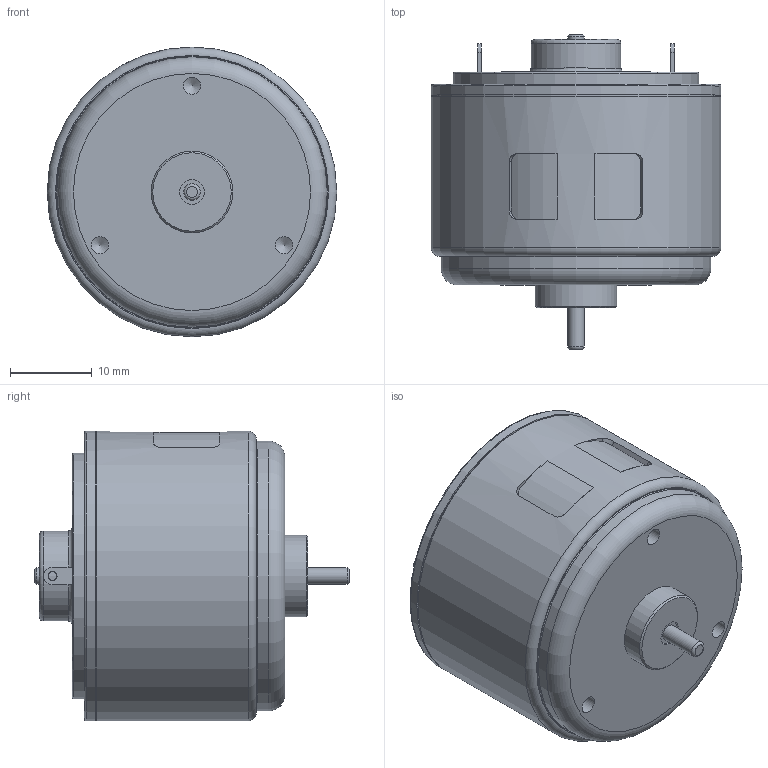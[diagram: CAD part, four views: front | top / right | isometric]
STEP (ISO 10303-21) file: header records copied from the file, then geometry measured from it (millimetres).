
FILE_DESCRIPTION(/* description */ (''),/* implementation_level */ '2;1');
FILE_NAME(/* name */ 'TP-3526N#.stp',/* time_stamp */ '2024-06-07T13:28:59+09:00',/* author */ ('user'),/* organization */ (''),/* preprocessor_version */ 'ST-DEVELOPER v20',/* originating_system */ 'Autodesk Inventor 2024',/* authorisation */ '');
FILE_SCHEMA (('AUTOMOTIVE_DESIGN { 1 0 10303 214 3 1 1 }'));
Length unit declared in the file: millimetre
Products named in the file (1): TP-3526(KE)
Bounding box: 35.4 x 38.5 x 35.4 mm (x, y, z)
Volume: 25124.8 mm3; surface area: 5120.2 mm2
Topology: 1 solids, 1 shells, 67 faces, 142 edges, 93 vertices
Faces by surface type: plane 28, cylinder 26, torus 9, cone 4
Full cylindrical faces by diameter (mm): 1.1 x2, 2 x2, 2.113 x3, 2.4 x2, 3 x1, 5 x1, 10 x1, 11 x1, 30 x1, 33 x1, 35 x1, 35.4 x2
Entity records: 1976 total; most frequent: CARTESIAN_POINT 372, DIRECTION 342, ORIENTED_EDGE 278, AXIS2_PLACEMENT_3D 143, EDGE_CURVE 139, VERTEX_POINT 93, EDGE_LOOP 90, CIRCLE 75
